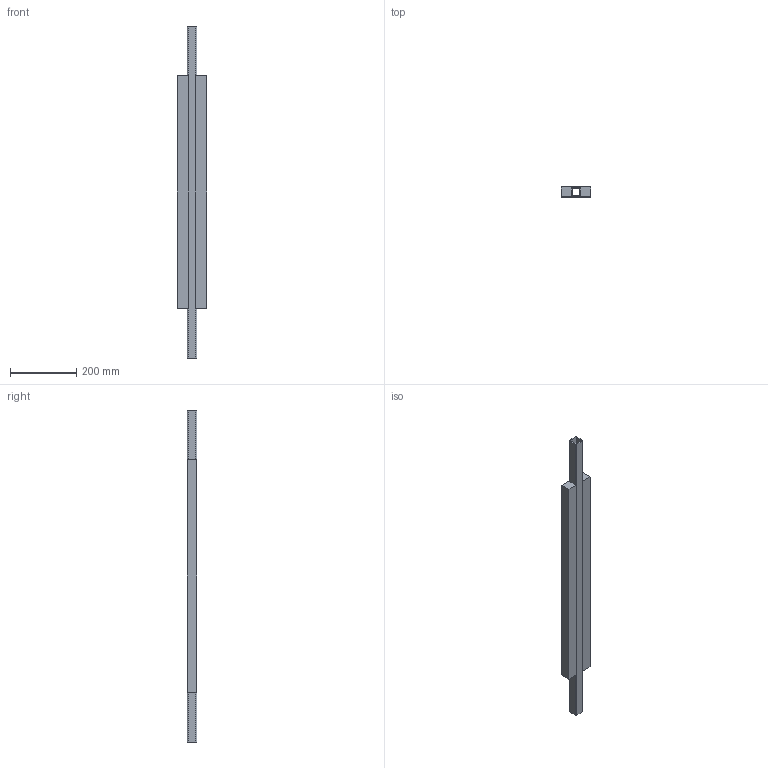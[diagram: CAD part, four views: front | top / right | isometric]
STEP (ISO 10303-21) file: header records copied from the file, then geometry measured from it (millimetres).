
FILE_DESCRIPTION (( 'STEP AP214' ), '1' );
FILE_NAME ('0006641_0_00.step', '2018-07-12T10:07:24', ( '' ), ( '' ), 'SwSTEP 2.0', 'SolidWorks 2018', '' );
FILE_SCHEMA (( 'AUTOMOTIVE_DESIGN' ));
Length unit declared in the file: millimetre
Products named in the file (3): 0006641_0_02_2 lame L=700; 0006641_0_00; 0006641_0_01_2 lame L=700
Assembly tree (2 placements, depth 2):
  0006641_0_00
    0006641_0_01_2 lame L=700
    0006641_0_02_2 lame L=700
Bounding box: 90 x 30 x 1000 mm (x, y, z)
Volume: 1581682.3 mm3; surface area: 396292.2 mm2
Topology: 3 solids, 3 shells, 30 faces, 72 edges, 48 vertices
Faces by surface type: plane 22, cylinder 8
Entity records: 1149 total; most frequent: DIRECTION 158, CARTESIAN_POINT 155, ORIENTED_EDGE 144, EDGE_CURVE 72, VECTOR 56, LINE 56, AXIS2_PLACEMENT_3D 51, VERTEX_POINT 48
